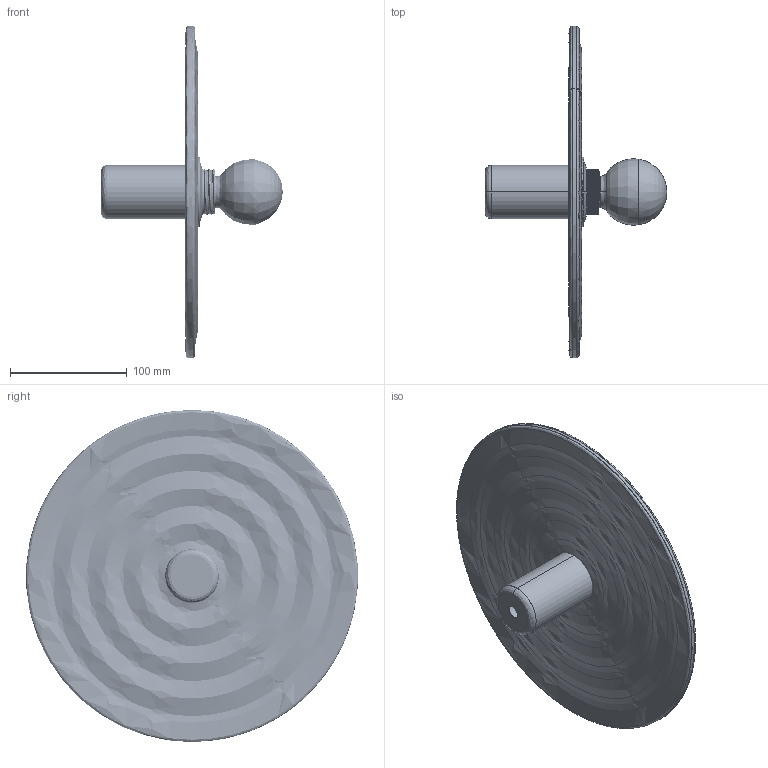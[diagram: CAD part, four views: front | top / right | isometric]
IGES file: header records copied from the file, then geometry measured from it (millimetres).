
Start section: SolidWorks IGES file using analytic representation for surfaces
Global section: file name: C:\Users\Agus\Desktop\NOVEDADES SEPT 2022 - 3D\WAVE\1094-30.IGS; native system: SolidWorks 2018; preprocessor: SolidWorks 2018; author: Agus; date: 220629.120138; units: millimetre
Bounding box: 155.79 x 284.88 x 284.95 mm (x, y, z)
Surface area: 204577.7 mm2 (no closed solid volume)
Topology: 0 solids, 0 shells, 456 faces, 10087 edges, 10080 vertices
Faces by surface type: revolution 343, bspline 113
